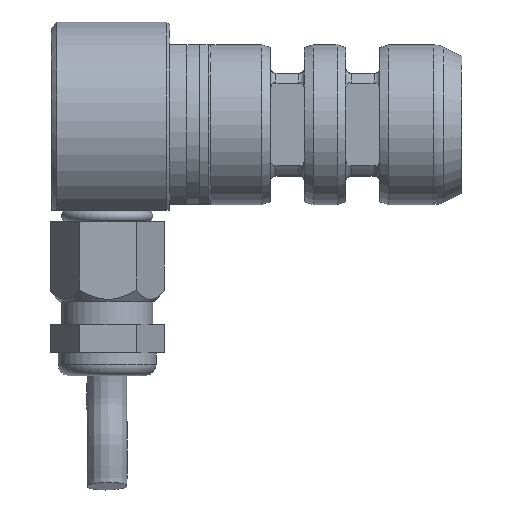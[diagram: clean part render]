
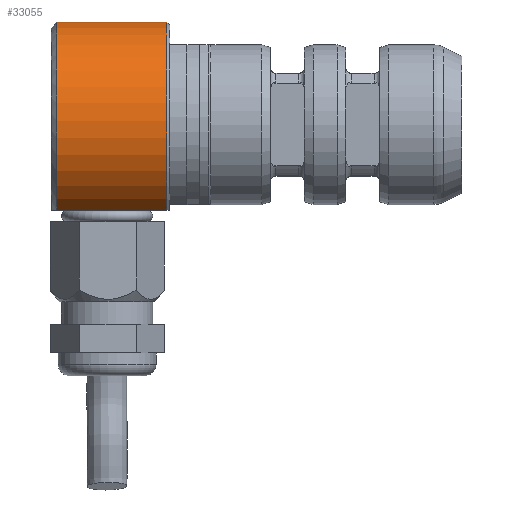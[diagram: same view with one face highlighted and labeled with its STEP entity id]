
A CAD part, top view. The second image highlights one B-rep face of the part: STEP entity #33055.
In plain terms, the highlighted cylindrical face has radius 9 mm (diameter 18 mm), a partial arc.
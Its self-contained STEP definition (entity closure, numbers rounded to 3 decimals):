
#4076=CYLINDRICAL_SURFACE('',#34987,9.);
#4340=VECTOR('',#120400,1.);
#4342=VECTOR('',#120402,1.);
#6586=LINE('',#36708,#4340);
#6588=LINE('',#36720,#4342);
#9716=VERTEX_POINT('',#36697);
#9717=VERTEX_POINT('',#36699);
#9720=VERTEX_POINT('',#36709);
#9723=VERTEX_POINT('',#36719);
#13059=CIRCLE('',#34983,9.);
#13062=CIRCLE('',#34988,9.);
#13579=EDGE_CURVE('',#9716,#9717,#13059,.T.);
#13583=EDGE_CURVE('',#9720,#9717,#6586,.T.);
#13587=EDGE_CURVE('',#9716,#9723,#6588,.T.);
#13589=EDGE_CURVE('',#9720,#9723,#13062,.T.);
#18741=ORIENTED_EDGE('',*,*,#13579,.F.);
#18742=ORIENTED_EDGE('',*,*,#13587,.T.);
#18743=ORIENTED_EDGE('',*,*,#13589,.F.);
#18744=ORIENTED_EDGE('',*,*,#13583,.T.);
#28864=EDGE_LOOP('',(#18741,#18742,#18743,#18744));
#30966=FACE_BOUND('',#28864,.T.);
#33055=ADVANCED_FACE('',(#30966),#4076,.T.);
#34983=AXIS2_PLACEMENT_3D('',#36698,#120393,#120394);
#34987=AXIS2_PLACEMENT_3D('',#36722,#120404,#120405);
#34988=AXIS2_PLACEMENT_3D('',#36723,#120406,#120407);
#36697=CARTESIAN_POINT('',(-3.85,-7.5,-4.975));
#36698=CARTESIAN_POINT('',(-3.85,0.,0.));
#36699=CARTESIAN_POINT('',(-3.85,-7.5,4.975));
#36708=CARTESIAN_POINT('',(-8.8,-7.5,4.975));
#36709=CARTESIAN_POINT('',(-13.5,-7.5,4.975));
#36719=CARTESIAN_POINT('',(-13.5,-7.5,-4.975));
#36720=CARTESIAN_POINT('',(-8.8,-7.5,-4.975));
#36722=CARTESIAN_POINT('',(-14.,0.,0.));
#36723=CARTESIAN_POINT('',(-13.5,0.,0.));
#120393=DIRECTION('',(1.,0.,0.));
#120394=DIRECTION('',(0.,9.,0.));
#120400=DIRECTION('',(1.,0.,0.));
#120402=DIRECTION('',(-1.,0.,0.));
#120404=DIRECTION('',(1.,0.,0.));
#120405=DIRECTION('',(0.,0.,-9.));
#120406=DIRECTION('',(-1.,0.,0.));
#120407=DIRECTION('',(0.,9.,0.));
